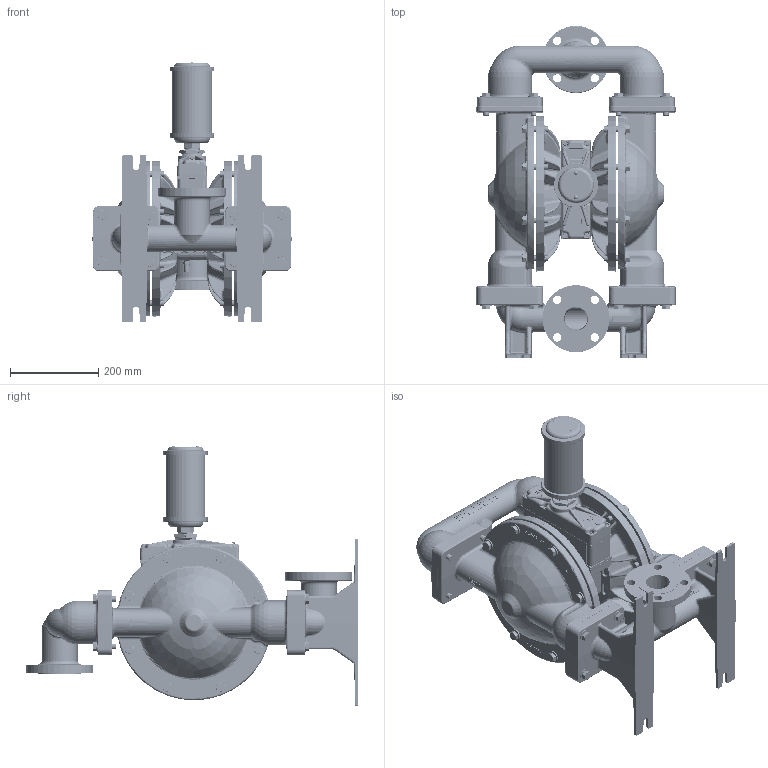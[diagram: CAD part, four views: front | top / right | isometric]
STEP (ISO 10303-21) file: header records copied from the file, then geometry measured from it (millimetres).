
FILE_DESCRIPTION((''),'2;1');
FILE_NAME('PS830_DI_TOP_SW0002','2016-09-21T',('Nathan.hale'),(''),'PRO/ENGINEER BY PARAMETRIC TECHNOLOGY CORPORATION, 2015360','PRO/ENGINEER BY PARAMETRIC TECHNOLOGY CORPORATION, 2015360','');
FILE_SCHEMA(('CONFIG_CONTROL_DESIGN'));
Products named in the file (1): PS830_DI_TOP_SW0002
Bounding box: 452.44 x 754.38 x 590.42 mm (x, y, z)
Volume: 14932338.4 mm3; surface area: 2652282.1 mm2
Topology: 6 solids, 6 shells, 15141 faces, 39749 edges, 25290 vertices
Faces by surface type: plane 9609, bspline 1812, cylinder 1659, cone 912, torus 747, sphere 242, extrusion 160
Entity records: 827774 total; most frequent: CARTESIAN_POINT 467497, ORIENTED_EDGE 79408, DIRECTION 67603, EDGE_CURVE 39704, VECTOR 27651, LINE 27491, VERTEX_POINT 25289, AXIS2_PLACEMENT_3D 19976
